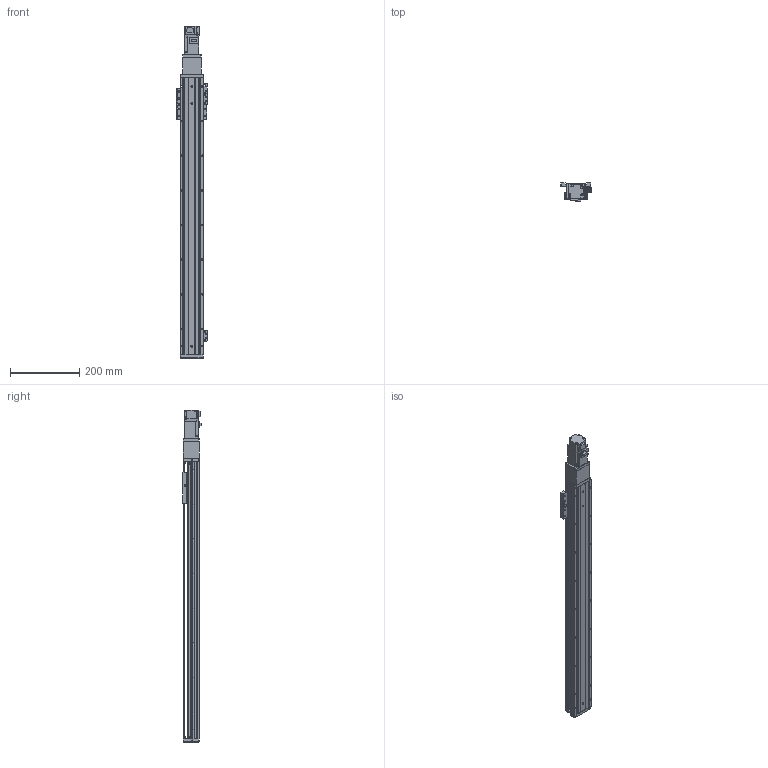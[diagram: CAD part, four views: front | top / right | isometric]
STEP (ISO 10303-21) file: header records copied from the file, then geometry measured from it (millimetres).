
FILE_DESCRIPTION (( 'STEP AP203' ), '1' );
FILE_NAME ('KTHAL60-650-BC-M10-C4L.step', '2022-03-19T08:35:50', ( '微软用户' ), ( '微软中国' ), 'SwSTEP 2.0', 'SolidWorks 2020', '' );
FILE_SCHEMA (( 'CONFIG_CONTROL_DESIGN' ));
Length unit declared in the file: millimetre
Products named in the file (18): KTHAL60-650-BC-M10-C4L; KTHA60-004; GBT 70.1-M3℅6; KTHA60-005; GBT 70.3-M3℅6; CTHA60-016; GB¨uT 70.2-M3¡Á5_M3¡Á6; EE_SX911P_R; CTHA60-006-2_CTHA60-006-2; CTHA60-017; CTHA60-027; CTHA60-021; CTHA60-013; KTHA60-001_800; GBT 70.1-M4×16; HG-KR13（三菱）; KTHLA60-002; GBT77-2000M3-3
Assembly tree (50 placements, depth 2):
  KTHAL60-650-BC-M10-C4L
    KTHA60-001_800
    KTHLA60-002
    KTHA60-004
    KTHA60-005
    GB¨uT 70.2-M3¡Á5_M3¡Á6  x5
    GBT 70.3-M3℅6  x6
    EE_SX911P_R  x3
    CTHA60-017  x3
    CTHA60-021  x2
    GBT 70.1-M4×16  x10
    GBT77-2000M3-3  x6
    GBT 70.1-M3℅6  x6
    CTHA60-016
    CTHA60-006-2_CTHA60-006-2
    CTHA60-027
    CTHA60-013
    HG-KR13（三菱）
Bounding box: 87.82 x 53.3 x 958.6 mm (x, y, z)
Volume: 1687887.7 mm3; surface area: 436869.5 mm2
Topology: 53 solids, 53 shells, 2240 faces, 5330 edges, 3273 vertices
Faces by surface type: plane 1306, cylinder 537, cone 297, torus 86, sphere 14
Entity records: 38004 total; most frequent: CARTESIAN_POINT 6250, DIRECTION 6130, ORIENTED_EDGE 5864, EDGE_CURVE 2932, VECTOR 2096, LINE 2096, AXIS2_PLACEMENT_3D 2017, VERTEX_POINT 1841
